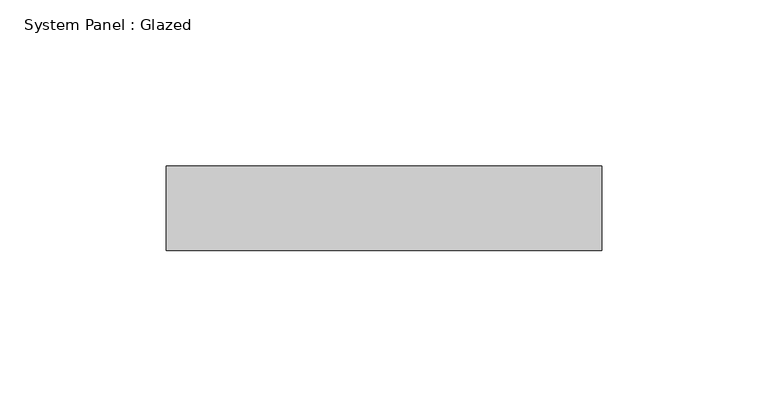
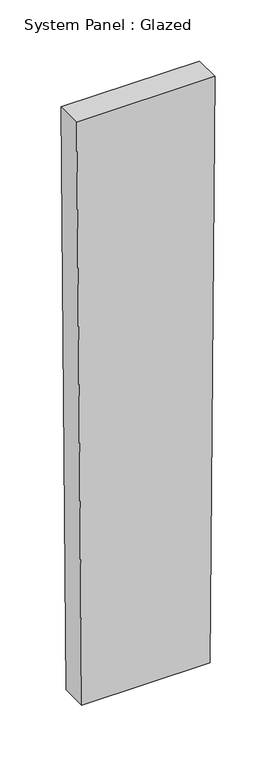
"""IFC4 building model written with IfcOpenShell, lengths in millimetres: plate geometry, System Panel : Glazed."""

from ifc_helpers import new_model, si_unit, frame, origin, place, context, project, spatial, polyline, outline, extrude, source, transform, mapped, element, save


def system_panel_glazed_4f238078(model_context):
    return source(origin(), model_context, "Body", "SweptSolid", [
        extrude(outline(polyline([(0.0, -60.6113935), (0.0, 60.6113935), (584.1783109, 65.5393872), (584.1783109, -65.5393872), (0.0, -60.6113935)])), frame((0.0, -44.45, 0.0), z_axis=(0.0, 1.0, 0.0), x_axis=(0.0, 0.0, 1.0)), (0.0, 0.0, 1.0), 25.4),
    ])


if __name__ == "__main__":
    model = new_model("IFC4")
    model_context = context("Model", 3, world=origin())
    ifc_project = project(units=[si_unit("LENGTHUNIT", "METRE", prefix="MILLI")], contexts=[model_context])
    site = spatial("IfcSite", under=ifc_project)
    building = spatial("IfcBuilding", under=site)
    placement = place(None, origin())
    system_panel_glazed_shape = system_panel_glazed_4f238078(model_context)
    element("IfcPlate", 1, ObjectType="System Panel : Glazed", at=placement, inside=building, context=model_context, shape_type="MappedRepresentation", body=[
        mapped(system_panel_glazed_shape, transform((0.0, 0.0, 0.0), x_axis=(1.0, 0.0, 0.0), y_axis=(0.0, 1.0, 0.0), z_axis=(0.0, 0.0, 1.0))),
    ])
    save(model, "model.ifc")
